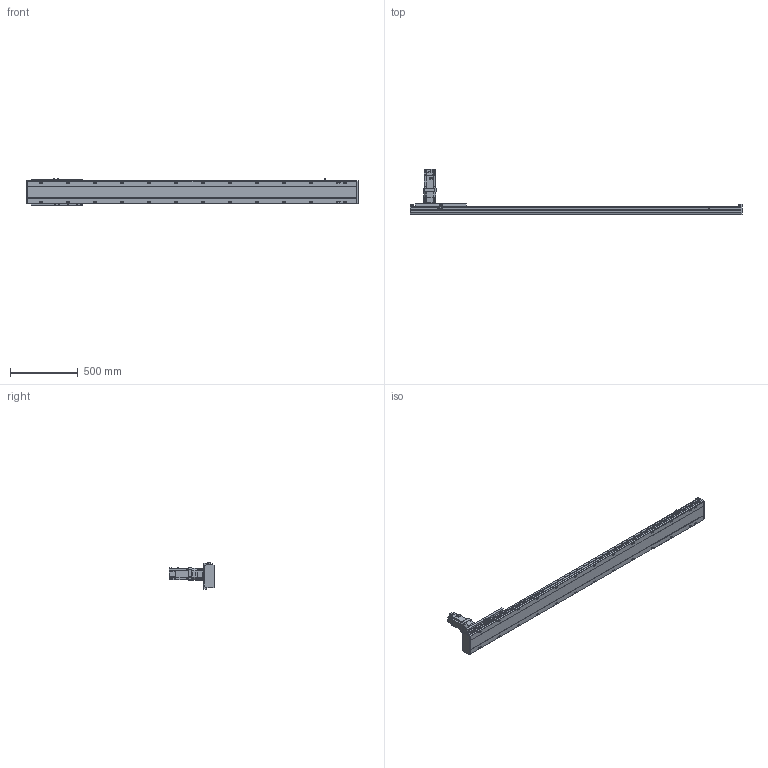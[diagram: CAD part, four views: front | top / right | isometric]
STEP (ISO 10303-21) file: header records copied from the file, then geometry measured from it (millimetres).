
FILE_DESCRIPTION(/* description */ ('STEP AP203'),/* implementation_level */ '2;1');
FILE_NAME(/* name */ 'SHS17A-L13-S2000-BC-T75-C1-N(0)',/* time_stamp */ '2023-03-27T08:57:58+02:00',/* author */ ('License CC BY-ND 4.0'),/* organization */ ('CADENAS'),/* preprocessor_version */ 'ST-DEVELOPER v19.3',/* originating_system */ 'PARTsolutions',/* authorisation */ ' ');
FILE_SCHEMA (('CONFIG_CONTROL_DESIGN'));
Length unit declared in the file: millimetre
Products named in the file (7): SHS17A-L13-S2000-BC-T75-C1-N(0); PSC140-sensor; SHS17A-S2000(0)_body2; T75-p1; SHS17A-S2000_body3; SHS17A-S2000-C1(0)_slider; SHS17A-S2000-C1(0)_body
Assembly tree (13 placements, depth 2):
  SHS17A-L13-S2000-BC-T75-C1-N(0)
    PSC140-sensor  x3
    SHS17A-S2000(0)_body2  x6
    T75-p1
    SHS17A-S2000_body3
    SHS17A-S2000-C1(0)_slider
    SHS17A-S2000-C1(0)_body
Bounding box: 2454 x 333.8 x 193.4 mm (x, y, z)
Volume: 18068096.8 mm3; surface area: 2118611.6 mm2
Topology: 13 solids, 13 shells, 2072 faces, 5256 edges, 3425 vertices
Faces by surface type: plane 1338, cylinder 651, cone 80, torus 3
Full cylindrical faces by diameter (mm): 2.8 x3, 4.134 x24, 4.5 x2, 4.6 x3, 4.917 x15, 5.5 x48, 6 x7, 6.5 x24, 6.647 x34, 6.8 x9, 8 x3, 8.5 x26, 10 x28, 11 x4, 14 x26, 22 x1, 24 x1, 24.2 x1, 28 x1, 28.2 x1, 28.8 x1, 29.8 x1, 48.542 x1, 68 x1, 70 x1, 78 x1, 80 x2
Entity records: 38822 total; most frequent: CARTESIAN_POINT 7478, DIRECTION 6373, ORIENTED_EDGE 6116, EDGE_CURVE 3058, AXIS2_PLACEMENT_3D 2236, VERTEX_POINT 2149, LINE 1901, VECTOR 1901
